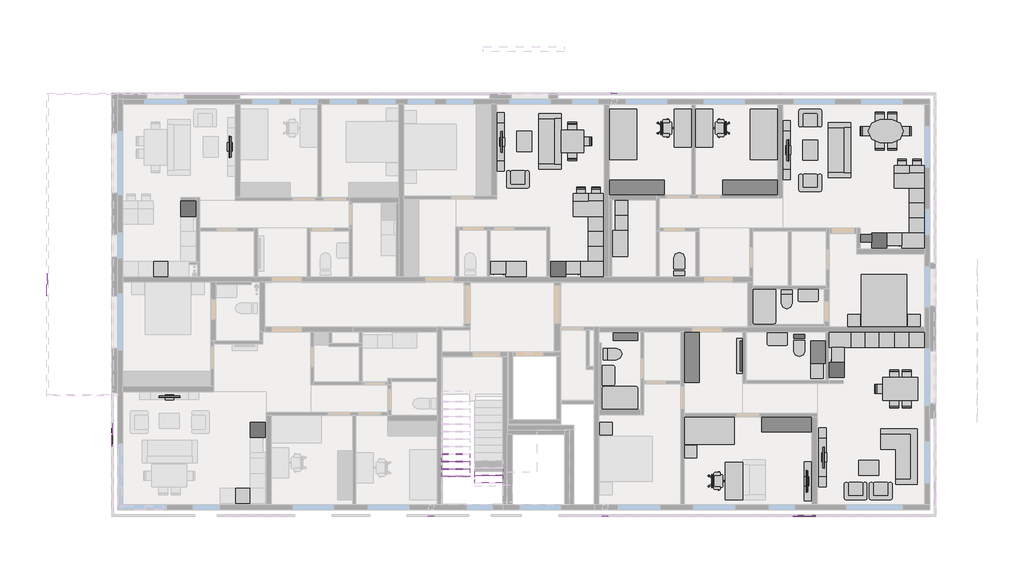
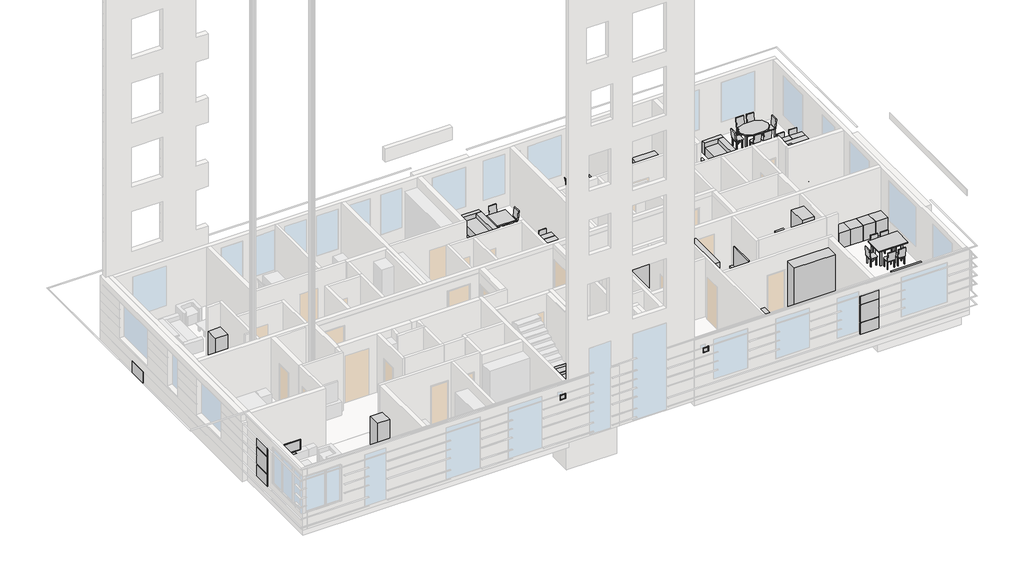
# One storey, part 10 of 11: 72 furniture elements, 36 proxies, 21 flow terminals.
"""IFC4 building model written with IfcOpenShell, lengths in millimetres."""

from ifc_helpers import new_model, si_unit, frame, origin, place, context, project, spatial, polyline, outline, extrude, faceted_brep, transform, mapped, element, save
from components import generic_models_2374763e, generic_models_0ea3a2f0, generic_models_359d7c4d, generic_models_d5e938d4, generic_models_e5fd676e, proxy_200x200_7656bd7d, proxy_600x600_5c3b2bdc, proxy_600x600_402ae289, diagonal_810_88a9d531, diagonal_810_7ba350c9, flow_terminal_9331744f, flow_terminal_e882d1db, flow_terminal_600x500_0679050d, flow_terminal_600x500_bbc3c571, flow_terminal_600x600_aff60e7d, flow_terminal_600x600_852fcc23, flow_terminal_600x600_098c5d3b, flow_terminal_800x500_2e84b328, default_a7bc26c5, default_96a4dd6a, default_cdd5ccfe, furniture_04e13bb0, furniture_0a480fd8, furniture_ec166d57, furniture_6f0d27c5, furniture_886729af, furniture_af5cb44b, furniture_a4c6fd55, furniture_1500x700_7e20c9bf, furniture_1500x700_44764a8b, furniture_2000x900_8549b6ce, furniture_2000x900_58b30379, furniture_2100x1800_bd9d3ce1, furniture_2200_2217fce5, furniture_2200_8f109862, furniture_500x2350_ecc61c4f, furniture_500x2350_c66ae9e6, furniture_500x2350_ca4e032f, furniture_700x700_51dbe41f, furniture_900x1400_8099c148, furniture_900x600_407b2405, furniture_900x_6df32213, chair_43e23103, chair_320c8197, default_8bd5e8aa, default_8e6d88ca, default_1c22f4a7, default_57711184, default_7369cba9, default_14032b75, default_8cef931d, default_b709d490, default_56ffee6e, default_10b48312, default_5d1f57f7, default_d962509c

model = new_model("IFC4")

# Units and contexts
model_context = context("Model", 3, world=origin())
ifc_project = project(units=[si_unit("LENGTHUNIT", "METRE", prefix="MILLI")], contexts=[model_context])

# Site, building, storey
site = spatial("IfcSite", under=ifc_project)
building = spatial("IfcBuilding", under=site)
storey = spatial("IfcBuildingStorey", under=building, Name="02_+4,400_Ж", Elevation=1200.0)

# Proxies
placement = place(None, origin())
element("IfcBuildingElementProxy", 1, Name="GM_Отделка : Ступень", ObjectType="GM_Отделка : Ступень", at=placement, inside=storey, context=model_context, shape_type="SweptSolid", body=[
    extrude(outline(polyline([(143230.0000002, 112779.9999987), (143230.0000002, 113079.9999987), (144350.0000002, 113079.9999987), (144350.0000002, 112779.9999987), (143230.0000002, 112779.9999987)])), frame((0.0, 0.0, 2670.0), z_axis=(0.0, 0.0, 1.0), x_axis=(1.0, 0.0, 0.0)), (0.0, 0.0, 1.0), 30.0),
])
element("IfcBuildingElementProxy", 2, Name="GM_Отделка : Подступенок", ObjectType="GM_Отделка : Подступенок", at=placement, inside=storey, context=model_context, shape_type="SweptSolid", body=[
    extrude(outline(polyline([(144350.0000002, 112779.9999987), (144350.0000002, 112749.9999987), (143230.0000002, 112749.9999987), (143230.0000002, 112779.9999987), (144350.0000002, 112779.9999987)])), frame((0.0, 0.0, 2670.0), z_axis=(0.0, 0.0, 1.0), x_axis=(1.0, 0.0, 0.0)), (0.0, 0.0, 1.0), 150.0),
])
element("IfcBuildingElementProxy", 3, Name="GM_Отделка : Ступень", ObjectType="GM_Отделка : Ступень", at=placement, inside=storey, context=model_context, shape_type="Brep", body=[
    faceted_brep([(143230.0000002, 112779.9999987, 2820.0), (144350.0000002, 112779.9999987, 2820.0), (144350.0000002, 112479.9999987, 2820.0), (143230.0000002, 112479.9999987, 2820.0), (143230.0000002, 112719.9999987, 2820.0), (143230.0000002, 112479.9999987, 2850.0), (144350.0000002, 112479.9999987, 2850.0), (144350.0000002, 112779.9999987, 2850.0), (143230.0000002, 112779.9999987, 2850.0), (143230.0000002, 112719.9999987, 2850.0)], [[[0, 1, 2, 3, 4]], [[5, 6, 7, 8, 9]], [[8, 0, 4, 3, 5, 9]], [[2, 1, 7, 6]], [[1, 0, 8, 7]], [[3, 2, 6, 5]]]),
])
generic_models_shape = generic_models_2374763e(model_context)
element("IfcBuildingElementProxy", 4, Name="GM_Панель фасадная : Тип 1", ObjectType="GM_Панель фасадная : Тип 1", at=placement, inside=storey, context=model_context, shape_type="MappedRepresentation", body=[
    mapped(generic_models_shape, transform((128855.0000001, 114724.9999987, 2490.0), x_axis=(0.0, 1.0, 0.0), y_axis=(-1.0, 0.0, 0.0), z_axis=(0.0, 0.0, 1.0))),
])
element("IfcBuildingElementProxy", 5, Name="GM_Панель фасадная : Тип 1", ObjectType="GM_Панель фасадная : Тип 1", at=placement, inside=storey, context=model_context, shape_type="MappedRepresentation", body=[
    mapped(generic_models_shape, transform((156055.0000001, 111274.9999987, 2490.0), x_axis=(-1.0, 0.0, 0.0), y_axis=(0.0, -1.0, 0.0), z_axis=(0.0, 0.0, 1.0))),
])
generic_models_2_shape = generic_models_0ea3a2f0(model_context)
element("IfcBuildingElementProxy", 6, Name="GM_Панель фасадная : Тип 1", ObjectType="GM_Панель фасадная : Тип 1", at=placement, inside=storey, context=model_context, shape_type="MappedRepresentation", body=[
    mapped(generic_models_2_shape, transform((128855.0000001, 114724.9999987, 3400.0), x_axis=(0.0, 1.0, 0.0), y_axis=(-1.0, 0.0, 0.0), z_axis=(0.0, 0.0, 1.0))),
])
element("IfcBuildingElementProxy", 7, Name="GM_Панель фасадная : Тип 1", ObjectType="GM_Панель фасадная : Тип 1", at=placement, inside=storey, context=model_context, shape_type="MappedRepresentation", body=[
    mapped(generic_models_2_shape, transform((156055.0000001, 111274.9999987, 3400.0), x_axis=(-1.0, 0.0, 0.0), y_axis=(0.0, -1.0, 0.0), z_axis=(0.0, 0.0, 1.0))),
])
generic_models_3_shape = generic_models_359d7c4d(model_context)
element("IfcBuildingElementProxy", 8, Name="GM_Панель фасадная : Тип 1", ObjectType="GM_Панель фасадная : Тип 1", at=placement, inside=storey, context=model_context, shape_type="MappedRepresentation", body=[
    mapped(generic_models_3_shape, transform((128855.0000001, 114724.9999987, 1885.0), x_axis=(0.0, 1.0, 0.0), y_axis=(-1.0, 0.0, 0.0), z_axis=(0.0, 0.0, 1.0))),
])
element("IfcBuildingElementProxy", 9, Name="GM_Панель фасадная : Тип 1", ObjectType="GM_Панель фасадная : Тип 1", at=placement, inside=storey, context=model_context, shape_type="MappedRepresentation", body=[
    mapped(generic_models_3_shape, transform((156055.0000001, 111274.9999987, 1885.0), x_axis=(-1.0, 0.0, 0.0), y_axis=(0.0, -1.0, 0.0), z_axis=(0.0, 0.0, 1.0))),
])
element("IfcBuildingElementProxy", 10, Name="GM_Панель фасадная : Тип 1", ObjectType="GM_Панель фасадная : Тип 1", at=placement, inside=storey, context=model_context, shape_type="MappedRepresentation", body=[
    mapped(generic_models_3_shape, transform((126255.0000001, 120724.9999987, 4460.0), x_axis=(0.0, 1.0, 0.0), y_axis=(-1.0, 0.0, 0.0), z_axis=(0.0, 0.0, 1.0))),
])
generic_models_4_shape = generic_models_d5e938d4(model_context)
element("IfcBuildingElementProxy", 11, Name="GM_Отделка : Подступенок", ObjectType="GM_Отделка : Подступенок", at=placement, inside=storey, context=model_context, shape_type="MappedRepresentation", body=[
    mapped(generic_models_4_shape, transform((142882.5000001, 112749.9999987, 3170.0), x_axis=(0.0, 0.0, 1.0), y_axis=(-1.0, 0.0, 0.0), z_axis=(0.0, -1.0, 0.0))),
])
element("IfcBuildingElementProxy", 12, Name="GM_Отделка : Подступенок", ObjectType="GM_Отделка : Подступенок", at=placement, inside=storey, context=model_context, shape_type="MappedRepresentation", body=[
    mapped(generic_models_4_shape, transform((142882.5000001, 113049.9999987, 3320.0), x_axis=(0.0, 0.0, 1.0), y_axis=(-1.0, 0.0, 0.0), z_axis=(0.0, -1.0, 0.0))),
])
element("IfcBuildingElementProxy", 13, Name="GM_Отделка : Подступенок", ObjectType="GM_Отделка : Подступенок", at=placement, inside=storey, context=model_context, shape_type="MappedRepresentation", body=[
    mapped(generic_models_4_shape, transform((142882.5000001, 113349.9999987, 3470.0), x_axis=(0.0, 0.0, 1.0), y_axis=(-1.0, 0.0, 0.0), z_axis=(0.0, -1.0, 0.0))),
])
element("IfcBuildingElementProxy", 14, Name="GM_Отделка : Подступенок", ObjectType="GM_Отделка : Подступенок", at=placement, inside=storey, context=model_context, shape_type="MappedRepresentation", body=[
    mapped(generic_models_4_shape, transform((142882.5000001, 113649.9999987, 3620.0), x_axis=(0.0, 0.0, 1.0), y_axis=(-1.0, 0.0, 0.0), z_axis=(0.0, -1.0, 0.0))),
])
generic_models_5_shape = generic_models_e5fd676e(model_context)
element("IfcBuildingElementProxy", 15, Name="GM_Отделка : Ступень", ObjectType="GM_Отделка : Ступень", at=placement, inside=storey, context=model_context, shape_type="MappedRepresentation", body=[
    mapped(generic_models_5_shape, transform((142882.5000001, 113069.9999987, 2970.0), x_axis=(0.0, 1.0, 0.0), y_axis=(-1.0, 0.0, 0.0), z_axis=(0.0, 0.0, 1.0))),
])
element("IfcBuildingElementProxy", 16, Name="GM_Отделка : Ступень", ObjectType="GM_Отделка : Ступень", at=placement, inside=storey, context=model_context, shape_type="MappedRepresentation", body=[
    mapped(generic_models_5_shape, transform((142882.5000001, 113369.9999987, 3120.0), x_axis=(0.0, 1.0, 0.0), y_axis=(-1.0, 0.0, 0.0), z_axis=(0.0, 0.0, 1.0))),
])
element("IfcBuildingElementProxy", 17, Name="GM_Отделка : Ступень", ObjectType="GM_Отделка : Ступень", at=placement, inside=storey, context=model_context, shape_type="MappedRepresentation", body=[
    mapped(generic_models_5_shape, transform((142882.5000001, 113669.9999987, 3270.0), x_axis=(0.0, 1.0, 0.0), y_axis=(-1.0, 0.0, 0.0), z_axis=(0.0, 0.0, 1.0))),
])
proxy_200x200_shape = proxy_200x200_7656bd7d(model_context)
element("IfcBuildingElementProxy", 18, Name="Eq_Отв- заполнение_решетка П : 200x200", ObjectType="Eq_Отв- заполнение_решетка П : 200x200", at=placement, inside=storey, context=model_context, shape_type="MappedRepresentation", body=[
    mapped(proxy_200x200_shape, transform((148790.0000001, 128049.9999987, 3745.0), x_axis=(-1.0, 0.0, 0.0), y_axis=(0.0, 0.0, 1.0), z_axis=(0.0, 1.0, 0.0))),
])
element("IfcBuildingElementProxy", 19, Name="Eq_Отв- заполнение_решетка П : 200x200", ObjectType="Eq_Отв- заполнение_решетка П : 200x200", at=placement, inside=storey, context=model_context, shape_type="MappedRepresentation", body=[
    mapped(proxy_200x200_shape, transform((148430.0000001, 111149.9999987, 3745.0), x_axis=(1.0, 0.0, 0.0), y_axis=(0.0, 0.0, 1.0), z_axis=(0.0, -1.0, 0.0))),
])
element("IfcBuildingElementProxy", 20, Name="Eq_Отв- заполнение_решетка П : 200x200", ObjectType="Eq_Отв- заполнение_решетка П : 200x200", at=placement, inside=storey, context=model_context, shape_type="MappedRepresentation", body=[
    mapped(proxy_200x200_shape, transform((141480.0000001, 111149.9999987, 3745.0), x_axis=(1.0, 0.0, 0.0), y_axis=(0.0, 0.0, 1.0), z_axis=(0.0, -1.0, 0.0))),
])
proxy_600x600_shape = proxy_600x600_5c3b2bdc(model_context)
element("IfcBuildingElementProxy", 21, Name="Eq_плита_LEG_v2 : 600x600", ObjectType="Eq_плита_LEG_v2 : 600x600", at=placement, inside=storey, context=model_context, shape_type="MappedRepresentation", body=[
    mapped(proxy_600x600_shape, transform((130997.5000001, 121324.9999987, 1200.0), x_axis=(-1.0, 0.0, 0.0), y_axis=(0.0, -1.0, 0.0), z_axis=(0.0, 0.0, 1.0))),
])
element("IfcBuildingElementProxy", 22, Name="Eq_плита_LEG_v2 : 600x600", ObjectType="Eq_плита_LEG_v2 : 600x600", at=placement, inside=storey, context=model_context, shape_type="MappedRepresentation", body=[
    mapped(proxy_600x600_shape, transform((147750.0000001, 123124.9999987, 1200.0), x_axis=(0.0, -1.0, 0.0), y_axis=(1.0, 0.0, 0.0), z_axis=(0.0, 0.0, 1.0))),
])
element("IfcBuildingElementProxy", 23, Name="Eq_плита_LEG_v2 : 600x600", ObjectType="Eq_плита_LEG_v2 : 600x600", at=placement, inside=storey, context=model_context, shape_type="MappedRepresentation", body=[
    mapped(proxy_600x600_shape, transform((160565.0000001, 124254.9999987, 1200.0), x_axis=(0.0, -1.0, 0.0), y_axis=(1.0, 0.0, 0.0), z_axis=(0.0, 0.0, 1.0))),
])
element("IfcBuildingElementProxy", 24, Name="Eq_плита_LEG_v2 : 600x600", ObjectType="Eq_плита_LEG_v2 : 600x600", at=placement, inside=storey, context=model_context, shape_type="MappedRepresentation", body=[
    mapped(proxy_600x600_shape, transform((159962.0000001, 117879.9999987, 1200.0), x_axis=(1.0, 0.0, 0.0), y_axis=(0.0, 1.0, 0.0), z_axis=(0.0, 0.0, 1.0))),
])
element("IfcBuildingElementProxy", 25, Name="Eq_плита_LEG_v2 : 600x600", ObjectType="Eq_плита_LEG_v2 : 600x600", at=placement, inside=storey, context=model_context, shape_type="MappedRepresentation", body=[
    mapped(proxy_600x600_shape, transform((134265.0000001, 112249.9999987, 1200.0), x_axis=(-1.0, 0.0, 0.0), y_axis=(0.0, -1.0, 0.0), z_axis=(0.0, 0.0, 1.0))),
])
proxy_600x600_2_shape = proxy_600x600_402ae289(model_context)
element("IfcBuildingElementProxy", 26, Name="Eq_холодильник_LEG : 600x600", ObjectType="Eq_холодильник_LEG : 600x600", at=placement, inside=storey, context=model_context, shape_type="MappedRepresentation", body=[
    mapped(proxy_600x600_2_shape, transform((132085.0000001, 123124.9999987, 1200.0), x_axis=(0.0, -1.0, 0.0), y_axis=(1.0, 0.0, 0.0), z_axis=(0.0, 0.0, 1.0))),
])
element("IfcBuildingElementProxy", 27, Name="Eq_холодильник_LEG : 600x600", ObjectType="Eq_холодильник_LEG : 600x600", at=placement, inside=storey, context=model_context, shape_type="MappedRepresentation", body=[
    mapped(proxy_600x600_2_shape, transform((146250.0000001, 120724.9999987, 1200.0), x_axis=(-1.0, 0.0, 0.0), y_axis=(0.0, -1.0, 0.0), z_axis=(0.0, 0.0, 1.0))),
])
element("IfcBuildingElementProxy", 28, Name="Eq_холодильник_LEG : 600x600", ObjectType="Eq_холодильник_LEG : 600x600", at=placement, inside=storey, context=model_context, shape_type="MappedRepresentation", body=[
    mapped(proxy_600x600_2_shape, transform((159065.0000001, 121854.9999987, 1200.0), x_axis=(-1.0, 0.0, 0.0), y_axis=(0.0, -1.0, 0.0), z_axis=(0.0, 0.0, 1.0))),
])
element("IfcBuildingElementProxy", 29, Name="Eq_холодильник_LEG : 600x600", ObjectType="Eq_холодильник_LEG : 600x600", at=placement, inside=storey, context=model_context, shape_type="MappedRepresentation", body=[
    mapped(proxy_600x600_2_shape, transform((157377.0000001, 117279.9999987, 1200.0), x_axis=(0.0, 1.0, 0.0), y_axis=(-1.0, 0.0, 0.0), z_axis=(0.0, 0.0, 1.0))),
])
element("IfcBuildingElementProxy", 30, Name="Eq_холодильник_LEG : 600x600", ObjectType="Eq_холодильник_LEG : 600x600", at=placement, inside=storey, context=model_context, shape_type="MappedRepresentation", body=[
    mapped(proxy_600x600_2_shape, transform((134865.0000001, 114299.9999987, 1200.0), x_axis=(0.0, -1.0, 0.0), y_axis=(1.0, 0.0, 0.0), z_axis=(0.0, 0.0, 1.0))),
])
diagonal_810_shape = diagonal_810_88a9d531(model_context)
element("IfcBuildingElementProxy", 31, Name="Eq_TV : diagonal_810", ObjectType="Eq_TV : diagonal_810", at=placement, inside=storey, context=model_context, shape_type="MappedRepresentation", body=[
    mapped(diagonal_810_shape, transform((157117.5755232, 113486.0554846, 1600.0), x_axis=(0.0, -1.0, 0.0), y_axis=(1.0, 0.0, 0.0), z_axis=(0.0, 0.0, 1.0))),
])
diagonal_810_2_shape = diagonal_810_7ba350c9(model_context)
element("IfcBuildingElementProxy", 32, Name="Eq_TV : diagonal_810", ObjectType="Eq_TV : diagonal_810", at=placement, inside=storey, context=model_context, shape_type="MappedRepresentation", body=[
    mapped(diagonal_810_2_shape, transform((131038.9445143, 115952.4244756, 1600.0), x_axis=(1.0, 0.0, 0.0), y_axis=(0.0, 1.0, 0.0), z_axis=(0.0, 0.0, 1.0))),
])
element("IfcBuildingElementProxy", 33, Name="Eq_TV : diagonal_810", ObjectType="Eq_TV : diagonal_810", at=placement, inside=storey, context=model_context, shape_type="MappedRepresentation", body=[
    mapped(diagonal_810_2_shape, transform((133497.4244771, 125896.0554846, 1600.0), x_axis=(0.0, -1.0, 0.0), y_axis=(1.0, 0.0, 0.0), z_axis=(0.0, 0.0, 1.0))),
])
element("IfcBuildingElementProxy", 34, Name="Eq_TV : diagonal_810", ObjectType="Eq_TV : diagonal_810", at=placement, inside=storey, context=model_context, shape_type="MappedRepresentation", body=[
    mapped(diagonal_810_2_shape, transform((144262.5755232, 126103.9445128, 1600.0), x_axis=(0.0, 1.0, 0.0), y_axis=(-1.0, 0.0, 0.0), z_axis=(0.0, 0.0, 1.0))),
])
element("IfcBuildingElementProxy", 35, Name="Eq_TV : diagonal_810", ObjectType="Eq_TV : diagonal_810", at=placement, inside=storey, context=model_context, shape_type="MappedRepresentation", body=[
    mapped(diagonal_810_2_shape, transform((155685.6400195, 125768.9445128, 1600.0), x_axis=(0.0, 1.0, 0.0), y_axis=(-1.0, 0.0, 0.0), z_axis=(0.0, 0.0, 1.0))),
])
element("IfcBuildingElementProxy", 36, Name="Eq_TV : diagonal_810", ObjectType="Eq_TV : diagonal_810", at=placement, inside=storey, context=model_context, shape_type="MappedRepresentation", body=[
    mapped(diagonal_810_2_shape, transform((156519.4244771, 112536.0554846, 1600.0), x_axis=(0.0, -1.0, 0.0), y_axis=(1.0, 0.0, 0.0), z_axis=(0.0, 0.0, 1.0))),
])

# Flow terminals
flow_terminal_shape = flow_terminal_9331744f(model_context)
element("IfcFlowTerminal", 37, ObjectType="SP_унитаз подвесной : SP_унитаз подвесной", at=placement, inside=storey, context=model_context, shape_type="MappedRepresentation", body=[
    mapped(flow_terminal_shape, transform((156177.0000001, 118169.9999987, 1600.0), x_axis=(-1.0, 0.0, 0.0), y_axis=(0.0, -1.0, 0.0), z_axis=(0.0, 0.0, 1.0))),
])
flow_terminal_2_shape = flow_terminal_e882d1db(model_context)
element("IfcFlowTerminal", 38, ObjectType="SP_унитаз подвесной : SP_унитаз подвесной", at=placement, inside=storey, context=model_context, shape_type="MappedRepresentation", body=[
    mapped(flow_terminal_2_shape, transform((151385.0000001, 121029.9999987, 1200.0), x_axis=(1.0, 0.0, 0.0), y_axis=(0.0, 1.0, 0.0), z_axis=(0.0, 0.0, 1.0))),
])
flow_terminal_600x500_shape = flow_terminal_600x500_0679050d(model_context)
element("IfcFlowTerminal", 39, ObjectType="SP_раковина_LEG_настраиваемая : 600x500", at=placement, inside=storey, context=model_context, shape_type="MappedRepresentation", body=[
    mapped(flow_terminal_600x500_shape, transform((144870.0000001, 120724.9999987, 1200.0), x_axis=(-1.0, 0.0, 0.0), y_axis=(0.0, -1.0, 0.0), z_axis=(0.0, 0.0, 1.0))),
])
flow_terminal_600x500_2_shape = flow_terminal_600x500_bbc3c571(model_context)
element("IfcFlowTerminal", 40, ObjectType="SP_раковина_LEG_настраиваемая : 600x500", at=placement, inside=storey, context=model_context, shape_type="MappedRepresentation", body=[
    mapped(flow_terminal_600x500_2_shape, transform((148740.0000001, 122037.4999987, 1288.0), x_axis=(0.0, 1.0, 0.0), y_axis=(-1.0, 0.0, 0.0), z_axis=(0.0, 0.0, 1.0))),
])
flow_terminal_600x600_shape = flow_terminal_600x600_aff60e7d(model_context)
element("IfcFlowTerminal", 41, ObjectType="SP_раковина кухонная_LEG : 600x600", at=placement, inside=storey, context=model_context, shape_type="MappedRepresentation", body=[
    mapped(flow_terminal_600x600_shape, transform((159362.0000001, 118479.9999987, 1200.0), x_axis=(1.0, 0.0, 0.0), y_axis=(0.0, 1.0, 0.0), z_axis=(0.0, 0.0, 1.0))),
])
element("IfcFlowTerminal", 42, ObjectType="SP_раковина кухонная_LEG : 600x600", at=placement, inside=storey, context=model_context, shape_type="MappedRepresentation", body=[
    mapped(flow_terminal_600x600_shape, transform((148350.0000001, 121324.9999987, 1200.0), x_axis=(0.0, -1.0, 0.0), y_axis=(1.0, 0.0, 0.0), z_axis=(0.0, 0.0, 1.0))),
])
element("IfcFlowTerminal", 43, ObjectType="SP_раковина кухонная_LEG : 600x600", at=placement, inside=storey, context=model_context, shape_type="MappedRepresentation", body=[
    mapped(flow_terminal_600x600_shape, transform((161165.0000001, 122454.9999987, 1200.0), x_axis=(0.0, -1.0, 0.0), y_axis=(1.0, 0.0, 0.0), z_axis=(0.0, 0.0, 1.0))),
])
flow_terminal_600x600_2_shape = flow_terminal_600x600_852fcc23(model_context)
element("IfcFlowTerminal", 44, ObjectType="SP_стиральная машина_LEG : 600x600", at=placement, inside=storey, context=model_context, shape_type="MappedRepresentation", body=[
    mapped(flow_terminal_600x600_2_shape, transform((144170.0000001, 120724.9999987, 1200.0), x_axis=(1.0, 0.0, 0.0), y_axis=(0.0, 1.0, 0.0), z_axis=(0.0, 0.0, 1.0))),
])
element("IfcFlowTerminal", 45, ObjectType="SP_стиральная машина_LEG : 600x600", at=placement, inside=storey, context=model_context, shape_type="MappedRepresentation", body=[
    mapped(flow_terminal_600x600_2_shape, transform((148740.0000001, 123449.9999987, 1200.0), x_axis=(0.0, -1.0, 0.0), y_axis=(1.0, 0.0, 0.0), z_axis=(0.0, 0.0, 1.0))),
])
element("IfcFlowTerminal", 46, ObjectType="SP_стиральная машина_LEG : 600x600", at=placement, inside=storey, context=model_context, shape_type="MappedRepresentation", body=[
    mapped(flow_terminal_600x600_2_shape, transform((157227.0000001, 116949.9999987, 1200.0), x_axis=(0.0, 1.0, 0.0), y_axis=(-1.0, 0.0, 0.0), z_axis=(0.0, 0.0, 1.0))),
])
element("IfcFlowTerminal", 47, ObjectType="SP_стиральная машина_LEG : 600x600", at=placement, inside=storey, context=model_context, shape_type="MappedRepresentation", body=[
    mapped(flow_terminal_600x600_2_shape, transform((148740.0000001, 122849.9999987, 1200.0), x_axis=(0.0, -1.0, 0.0), y_axis=(1.0, 0.0, 0.0), z_axis=(0.0, 0.0, 1.0))),
])
flow_terminal_600x600_3_shape = flow_terminal_600x600_098c5d3b(model_context)
element("IfcFlowTerminal", 48, ObjectType="SP_посудомоечная машина_LEG : 600x600", at=placement, inside=storey, context=model_context, shape_type="MappedRepresentation", body=[
    mapped(flow_terminal_600x600_3_shape, transform((147150.0000001, 120724.9999987, 1200.0), x_axis=(1.0, 0.0, 0.0), y_axis=(0.0, 1.0, 0.0), z_axis=(0.0, 0.0, 1.0))),
])
element("IfcFlowTerminal", 49, ObjectType="SP_посудомоечная машина_LEG : 600x600", at=placement, inside=storey, context=model_context, shape_type="MappedRepresentation", body=[
    mapped(flow_terminal_600x600_3_shape, transform((159965.0000001, 121854.9999987, 1200.0), x_axis=(1.0, 0.0, 0.0), y_axis=(0.0, 1.0, 0.0), z_axis=(0.0, 0.0, 1.0))),
])
element("IfcFlowTerminal", 50, ObjectType="SP_посудомоечная машина_LEG : 600x600", at=placement, inside=storey, context=model_context, shape_type="MappedRepresentation", body=[
    mapped(flow_terminal_600x600_3_shape, transform((157377.0000001, 117579.9999987, 1200.0), x_axis=(0.0, -1.0, 0.0), y_axis=(1.0, 0.0, 0.0), z_axis=(0.0, 0.0, 1.0))),
])
flow_terminal_800x500_shape = flow_terminal_800x500_2e84b328(model_context)
element("IfcFlowTerminal", 51, ObjectType="SP_раковина_LEG : 800x500", at=placement, inside=storey, context=model_context, shape_type="MappedRepresentation", body=[
    mapped(flow_terminal_800x500_shape, transform((156530.0000001, 120224.9999987, 1200.0), x_axis=(1.0, 0.0, 0.0), y_axis=(0.0, 1.0, 0.0), z_axis=(0.0, 0.0, 1.0))),
])
element("IfcFlowTerminal", 52, ObjectType="SP_раковина_LEG : 800x500", at=placement, inside=storey, context=model_context, shape_type="MappedRepresentation", body=[
    mapped(flow_terminal_800x500_shape, transform((148305.0000001, 116769.9999987, 1200.0), x_axis=(0.0, 1.0, 0.0), y_axis=(-1.0, 0.0, 0.0), z_axis=(0.0, 0.0, 1.0))),
])
element("IfcFlowTerminal", 53, ObjectType="SP_раковина_LEG : 800x500", at=placement, inside=storey, context=model_context, shape_type="MappedRepresentation", body=[
    mapped(flow_terminal_800x500_shape, transform((155302.0000001, 118474.9999987, 1200.0), x_axis=(1.0, 0.0, 0.0), y_axis=(0.0, 1.0, 0.0), z_axis=(0.0, 0.0, 1.0))),
])
default_shape = default_a7bc26c5(model_context)
element("IfcFlowTerminal", 54, ObjectType="SP_душевой поддон_LEG : default", at=placement, inside=storey, context=model_context, shape_type="MappedRepresentation", body=[
    mapped(default_shape, transform((154330.0000001, 120224.9999987, 1200.0), x_axis=(0.0, -1.0, 0.0), y_axis=(1.0, 0.0, 0.0), z_axis=(0.0, 0.0, 1.0))),
])
default_2_shape = default_96a4dd6a(model_context)
element("IfcFlowTerminal", 55, ObjectType="SP_душевой поддон_LEG : default", at=placement, inside=storey, context=model_context, shape_type="MappedRepresentation", body=[
    mapped(default_2_shape, transform((149720.0000001, 115429.9999987, 1200.0), x_axis=(0.0, 1.0, 0.0), y_axis=(-1.0, 0.0, 0.0), z_axis=(0.0, 0.0, 1.0))),
])
default_3_shape = default_cdd5ccfe(model_context)
element("IfcFlowTerminal", 56, ObjectType="SP_унитаз : default", at=placement, inside=storey, context=model_context, shape_type="MappedRepresentation", body=[
    mapped(default_3_shape, transform((155680.0000001, 120174.9999987, 1200.0), x_axis=(0.0, -1.0, 0.0), y_axis=(1.0, 0.0, 0.0), z_axis=(0.0, 0.0, 1.0))),
])
element("IfcFlowTerminal", 57, ObjectType="SP_унитаз : default", at=placement, inside=storey, context=model_context, shape_type="MappedRepresentation", body=[
    mapped(default_3_shape, transform((148355.0000001, 117619.9999987, 1200.0), x_axis=(1.0, 0.0, 0.0), y_axis=(0.0, 1.0, 0.0), z_axis=(0.0, 0.0, 1.0))),
])

# Furniture
furniture_shape = furniture_04e13bb0(model_context)
element("IfcFurniture", 58, ObjectType="Fu_журнальный_столик_прямоугольный_LEG : 600Х800", at=placement, inside=storey, context=model_context, shape_type="MappedRepresentation", body=[
    mapped(furniture_shape, transform((145745.0000001, 126119.9999987, 1200.0), x_axis=(1.0, 0.0, 0.0), y_axis=(0.0, 1.0, 0.0), z_axis=(0.0, 0.0, 1.0))),
])
element("IfcFurniture", 59, ObjectType="Fu_журнальный_столик_прямоугольный_LEG : 600Х800", at=placement, inside=storey, context=model_context, shape_type="MappedRepresentation", body=[
    mapped(furniture_shape, transform((157165.0000001, 125764.9999987, 1200.0), x_axis=(1.0, 0.0, 0.0), y_axis=(0.0, 1.0, 0.0), z_axis=(0.0, 0.0, 1.0))),
])
element("IfcFurniture", 60, ObjectType="Fu_журнальный_столик_прямоугольный_LEG : 600Х800", at=placement, inside=storey, context=model_context, shape_type="MappedRepresentation", body=[
    mapped(furniture_shape, transform((158955.0000001, 113630.6346934, 1200.0), x_axis=(0.0, 1.0, 0.0), y_axis=(-1.0, 0.0, 0.0), z_axis=(0.0, 0.0, 1.0))),
])
furniture_2_shape = furniture_0a480fd8(model_context)
element("IfcFurniture", 61, ObjectType="Fu_трюмо_LEG : 1400Х250", at=placement, inside=storey, context=model_context, shape_type="MappedRepresentation", body=[
    mapped(furniture_2_shape, transform((153927.0000001, 116839.9999987, 1200.0), x_axis=(0.0, 1.0, 0.0), y_axis=(-1.0, 0.0, 0.0), z_axis=(0.0, 0.0, 1.0))),
])
furniture_3_shape = furniture_ec166d57(model_context)
element("IfcFurniture", 62, ObjectType="Fu_шкаф 1-с : Шкаф 1-створчатый", at=placement, inside=storey, context=model_context, shape_type="MappedRepresentation", body=[
    mapped(furniture_3_shape, transform((156627.0000001, 117249.9999987, 1200.0), x_axis=(1.0, 0.0, 0.0), y_axis=(0.0, 1.0, 0.0), z_axis=(0.0, 0.0, 1.0))),
])
furniture_4_shape = furniture_6f0d27c5(model_context)
element("IfcFurniture", 63, ObjectType="Fu_шкаф 1-с : Шкаф 1-створчатый", at=placement, inside=storey, context=model_context, shape_type="MappedRepresentation", body=[
    mapped(furniture_4_shape, transform((148760.0000001, 118169.9999987, 1200.0), x_axis=(1.0, 0.0, 0.0), y_axis=(0.0, 1.0, 0.0), z_axis=(0.0, 0.0, 1.0))),
])
furniture_5_shape = furniture_886729af(model_context)
element("IfcFurniture", 64, ObjectType="Fu_шкаф 1-с : Шкаф 1-створчатый", at=placement, inside=storey, context=model_context, shape_type="MappedRepresentation", body=[
    mapped(furniture_5_shape, transform((158605.0000001, 122104.9999987, 1200.0), x_axis=(1.0, 0.0, 0.0), y_axis=(0.0, 1.0, 0.0), z_axis=(0.0, 0.0, 1.0))),
])
furniture_6_shape = furniture_af5cb44b(model_context)
element("IfcFurniture", 65, ObjectType="Fu_тумба прикроватная_LEG : 500х500", at=placement, inside=storey, context=model_context, shape_type="MappedRepresentation", body=[
    mapped(furniture_6_shape, transform((158360.0000001, 118949.9999987, 1200.0), x_axis=(-1.0, 0.0, 0.0), y_axis=(0.0, -1.0, 0.0), z_axis=(0.0, 0.0, 1.0))),
])
element("IfcFurniture", 66, ObjectType="Fu_тумба прикроватная_LEG : 500х500", at=placement, inside=storey, context=model_context, shape_type="MappedRepresentation", body=[
    mapped(furniture_6_shape, transform((148460.0000001, 114639.9999987, 1200.0), x_axis=(0.0, 1.0, 0.0), y_axis=(-1.0, 0.0, 0.0), z_axis=(0.0, 0.0, 1.0))),
])
furniture_7_shape = furniture_a4c6fd55(model_context)
element("IfcFurniture", 67, ObjectType="Fu_тумба прикроватная_LEG : 500х500", at=placement, inside=storey, context=model_context, shape_type="MappedRepresentation", body=[
    mapped(furniture_7_shape, transform((160760.0000001, 118949.9999987, 1200.0), x_axis=(1.0, 0.0, 0.0), y_axis=(0.0, 1.0, 0.0), z_axis=(0.0, 0.0, 1.0))),
])
element("IfcFurniture", 68, ObjectType="Fu_тумба прикроватная_LEG : 500х500", at=placement, inside=storey, context=model_context, shape_type="MappedRepresentation", body=[
    mapped(furniture_7_shape, transform((151832.0000001, 113719.9999987, 1200.0), x_axis=(0.0, -1.0, 0.0), y_axis=(1.0, 0.0, 0.0), z_axis=(0.0, 0.0, 1.0))),
])
furniture_1500x700_shape = furniture_1500x700_7e20c9bf(model_context)
element("IfcFurniture", 69, ObjectType="Fu_стол рабочий : 1500x700", at=placement, inside=storey, context=model_context, shape_type="MappedRepresentation", body=[
    mapped(furniture_1500x700_shape, transform((153631.7939625, 126423.4018907, 1200.0), x_axis=(0.0, -1.0, 0.0), y_axis=(1.0, 0.0, 0.0), z_axis=(0.0, 0.0, 1.0))),
])
furniture_1500x700_2_shape = furniture_1500x700_44764a8b(model_context)
element("IfcFurniture", 70, ObjectType="Fu_стол рабочий : 1500x700", at=placement, inside=storey, context=model_context, shape_type="MappedRepresentation", body=[
    mapped(furniture_1500x700_2_shape, transform((150273.2060378, 126423.4018907, 1200.0), x_axis=(0.0, -1.0, 0.0), y_axis=(1.0, 0.0, 0.0), z_axis=(0.0, 0.0, 1.0))),
])
element("IfcFurniture", 71, ObjectType="Fu_стол рабочий : 1500x700", at=placement, inside=storey, context=model_context, shape_type="MappedRepresentation", body=[
    mapped(furniture_1500x700_2_shape, transform((152310.2060378, 112323.4018907, 1200.0), x_axis=(0.0, -1.0, 0.0), y_axis=(1.0, 0.0, 0.0), z_axis=(0.0, 0.0, 1.0))),
])
furniture_2000x900_shape = furniture_2000x900_8549b6ce(model_context)
element("IfcFurniture", 72, ObjectType="Fu_кровать x1_LEG : 2000x900", at=placement, inside=storey, context=model_context, shape_type="MappedRepresentation", body=[
    mapped(furniture_2000x900_shape, transform((148691.9355038, 126634.4295069, 1200.0), x_axis=(-1.0, 0.0, 0.0), y_axis=(0.0, -1.0, 0.0), z_axis=(0.0, 0.0, 1.0))),
])
furniture_2000x900_2_shape = furniture_2000x900_58b30379(model_context)
element("IfcFurniture", 73, ObjectType="Fu_кровать x1_LEG : 2000x900", at=placement, inside=storey, context=model_context, shape_type="MappedRepresentation", body=[
    mapped(furniture_2000x900_2_shape, transform((152347.570492, 115019.9999987, 1200.0), x_axis=(0.0, 1.0, 0.0), y_axis=(-1.0, 0.0, 0.0), z_axis=(0.0, 0.0, 1.0))),
])
element("IfcFurniture", 74, ObjectType="Fu_кровать x1_LEG : 2000x900", at=placement, inside=storey, context=model_context, shape_type="MappedRepresentation", body=[
    mapped(furniture_2000x900_2_shape, transform((155213.0644964, 126634.4295069, 1200.0), x_axis=(1.0, 0.0, 0.0), y_axis=(0.0, 1.0, 0.0), z_axis=(0.0, 0.0, 1.0))),
])
furniture_2100x1800_shape = furniture_2100x1800_bd9d3ce1(model_context)
element("IfcFurniture", 75, ObjectType="Fu_кровать x2_LEG : 2100x1800", at=placement, inside=storey, context=model_context, shape_type="MappedRepresentation", body=[
    mapped(furniture_2100x1800_shape, transform((159560.0000001, 119515.5704905, 1200.0), x_axis=(1.0, 0.0, 0.0), y_axis=(0.0, 1.0, 0.0), z_axis=(0.0, 0.0, 1.0))),
])
furniture_2200_shape = furniture_2200_2217fce5(model_context)
element("IfcFurniture", 76, ObjectType="Fu_диван_LEG : 2200", at=placement, inside=storey, context=model_context, shape_type="MappedRepresentation", body=[
    mapped(furniture_2200_shape, transform((145753.222951, 126993.3737692, 1200.0), x_axis=(0.0, -1.0, 0.0), y_axis=(1.0, 0.0, 0.0), z_axis=(0.0, 0.0, 1.0))),
])
element("IfcFurniture", 77, ObjectType="Fu_диван_LEG : 2200", at=placement, inside=storey, context=model_context, shape_type="MappedRepresentation", body=[
    mapped(furniture_2200_shape, transform((157313.222951, 126638.3737692, 1200.0), x_axis=(0.0, -1.0, 0.0), y_axis=(1.0, 0.0, 0.0), z_axis=(0.0, 0.0, 1.0))),
])
furniture_2200_2_shape = furniture_2200_8f109862(model_context)
element("IfcFurniture", 78, ObjectType="Fu_диван угловой_LEG : 2200", at=placement, inside=storey, context=model_context, shape_type="MappedRepresentation", body=[
    mapped(furniture_2200_2_shape, transform((159988.222951, 114698.3737692, 1200.0), x_axis=(0.0, -1.0, 0.0), y_axis=(1.0, 0.0, 0.0), z_axis=(0.0, 0.0, 1.0))),
])
furniture_500x2350_shape = furniture_500x2350_ecc61c4f(model_context)
element("IfcFurniture", 79, ObjectType="Fu_TV+тумба_LEG : 500x2350", at=placement, inside=storey, context=model_context, shape_type="MappedRepresentation", body=[
    mapped(furniture_500x2350_shape, transform((157871.7770493, 113263.4018907, 1200.0), x_axis=(0.0, -1.0, 0.0), y_axis=(1.0, 0.0, 0.0), z_axis=(0.0, 0.0, 1.0))),
])
furniture_500x2350_2_shape = furniture_500x2350_c66ae9e6(model_context)
element("IfcFurniture", 80, ObjectType="Fu_TV+тумба_LEG : 500x2350", at=placement, inside=storey, context=model_context, shape_type="MappedRepresentation", body=[
    mapped(furniture_500x2350_2_shape, transform((155765.222951, 112313.4018907, 1200.0), x_axis=(0.0, -1.0, 0.0), y_axis=(1.0, 0.0, 0.0), z_axis=(0.0, 0.0, 1.0))),
])
furniture_500x2350_3_shape = furniture_500x2350_ca4e032f(model_context)
element("IfcFurniture", 81, ObjectType="Fu_TV+тумба_LEG : 500x2350", at=placement, inside=storey, context=model_context, shape_type="MappedRepresentation", body=[
    mapped(furniture_500x2350_3_shape, transform((145016.7770493, 126326.5981067, 1200.0), x_axis=(0.0, 1.0, 0.0), y_axis=(-1.0, 0.0, 0.0), z_axis=(0.0, 0.0, 1.0))),
])
element("IfcFurniture", 82, ObjectType="Fu_TV+тумба_LEG : 500x2350", at=placement, inside=storey, context=model_context, shape_type="MappedRepresentation", body=[
    mapped(furniture_500x2350_3_shape, transform((156439.8415456, 125991.5981067, 1200.0), x_axis=(0.0, 1.0, 0.0), y_axis=(-1.0, 0.0, 0.0), z_axis=(0.0, 0.0, 1.0))),
])
furniture_700x700_shape = furniture_700x700_51dbe41f(model_context)
element("IfcFurniture", 83, ObjectType="Fu_кухонный стол_LEG : 700x700", at=placement, inside=storey, context=model_context, shape_type="MappedRepresentation", body=[
    mapped(furniture_700x700_shape, transform((146570.0000001, 126119.9999987, 1200.0), x_axis=(-1.0, 0.0, 0.0), y_axis=(0.0, -1.0, 0.0), z_axis=(0.0, 0.0, 1.0))),
])
furniture_900x1400_shape = furniture_900x1400_8099c148(model_context)
element("IfcFurniture", 84, ObjectType="Fu_кухонный стол_LEG : 900x1400", at=placement, inside=storey, context=model_context, shape_type="MappedRepresentation", body=[
    mapped(furniture_900x1400_shape, transform((160513.5750403, 116229.9999987, 1200.0), x_axis=(1.0, 0.0, 0.0), y_axis=(0.0, 1.0, 0.0), z_axis=(0.0, 0.0, 1.0))),
])
furniture_900x600_shape = furniture_900x600_407b2405(model_context)
element("IfcFurniture", 85, ObjectType="Fu_кресло_большое_LEG : 900x600", at=placement, inside=storey, context=model_context, shape_type="MappedRepresentation", body=[
    mapped(furniture_900x600_shape, transform((145058.8000002, 124799.92636, 1200.0), x_axis=(-1.0, 0.0, 0.0), y_axis=(0.0, -1.0, 0.0), z_axis=(0.0, 0.0, 1.0))),
])
element("IfcFurniture", 86, ObjectType="Fu_кресло_большое_LEG : 900x600", at=placement, inside=storey, context=model_context, shape_type="MappedRepresentation", body=[
    mapped(furniture_900x600_shape, transform((156500.7000001, 126850.0736374, 1200.0), x_axis=(1.0, 0.0, 0.0), y_axis=(0.0, 1.0, 0.0), z_axis=(0.0, 0.0, 1.0))),
])
element("IfcFurniture", 87, ObjectType="Fu_кресло_большое_LEG : 900x600", at=placement, inside=storey, context=model_context, shape_type="MappedRepresentation", body=[
    mapped(furniture_900x600_shape, transform((156729.3000001, 124664.92636, 1200.0), x_axis=(-1.0, 0.0, 0.0), y_axis=(0.0, -1.0, 0.0), z_axis=(0.0, 0.0, 1.0))),
])
element("IfcFurniture", 88, ObjectType="Fu_кресло_большое_LEG : 900x600", at=placement, inside=storey, context=model_context, shape_type="MappedRepresentation", body=[
    mapped(furniture_900x600_shape, transform((159544.3000001, 112349.92636, 1200.0), x_axis=(-1.0, 0.0, 0.0), y_axis=(0.0, -1.0, 0.0), z_axis=(0.0, 0.0, 1.0))),
])
element("IfcFurniture", 89, ObjectType="Fu_кресло_большое_LEG : 900x600", at=placement, inside=storey, context=model_context, shape_type="MappedRepresentation", body=[
    mapped(furniture_900x600_shape, transform((158544.3000001, 112349.92636, 1200.0), x_axis=(-1.0, 0.0, 0.0), y_axis=(0.0, -1.0, 0.0), z_axis=(0.0, 0.0, 1.0))),
])
furniture_900x_shape = furniture_900x_6df32213(model_context)
element("IfcFurniture", 90, ObjectType="Fu_кухонный стол_овальный_LEG : 900x_", at=placement, inside=storey, context=model_context, shape_type="MappedRepresentation", body=[
    mapped(furniture_900x_shape, transform((159935.7634393, 126529.9837379, 1200.0), x_axis=(1.0, 0.0, 0.0), y_axis=(0.0, 1.0, 0.0), z_axis=(0.0, 0.0, 1.0))),
])
chair_shape = chair_43e23103(model_context)
element("IfcFurniture", 91, ObjectType="Fu_стул_LEG : chair", at=placement, inside=storey, context=model_context, shape_type="MappedRepresentation", body=[
    mapped(chair_shape, transform((147706.5185143, 126091.7999987, 1200.0), x_axis=(0.0, -1.0, 0.0), y_axis=(1.0, 0.0, 0.0), z_axis=(0.0, 0.0, 1.0))),
])
element("IfcFurniture", 92, ObjectType="Fu_стул_LEG : chair", at=placement, inside=storey, context=model_context, shape_type="MappedRepresentation", body=[
    mapped(chair_shape, transform((147091.8000001, 125533.4814846, 1200.0), x_axis=(-1.0, 0.0, 0.0), y_axis=(0.0, -1.0, 0.0), z_axis=(0.0, 0.0, 1.0))),
])
element("IfcFurniture", 93, ObjectType="Fu_стул_LEG : chair", at=placement, inside=storey, context=model_context, shape_type="MappedRepresentation", body=[
    mapped(chair_shape, transform((158799.2449252, 126558.1837379, 1200.0), x_axis=(0.0, 1.0, 0.0), y_axis=(-1.0, 0.0, 0.0), z_axis=(0.0, 0.0, 1.0))),
])
element("IfcFurniture", 94, ObjectType="Fu_стул_LEG : chair", at=placement, inside=storey, context=model_context, shape_type="MappedRepresentation", body=[
    mapped(chair_shape, transform((159413.9634393, 127116.502252, 1200.0), x_axis=(1.0, 0.0, 0.0), y_axis=(0.0, 1.0, 0.0), z_axis=(0.0, 0.0, 1.0))),
])
element("IfcFurniture", 95, ObjectType="Fu_стул_LEG : chair", at=placement, inside=storey, context=model_context, shape_type="MappedRepresentation", body=[
    mapped(chair_shape, transform((159913.9634393, 127116.502252, 1200.0), x_axis=(1.0, 0.0, 0.0), y_axis=(0.0, 1.0, 0.0), z_axis=(0.0, 0.0, 1.0))),
])
element("IfcFurniture", 96, ObjectType="Fu_стул_LEG : chair", at=placement, inside=storey, context=model_context, shape_type="MappedRepresentation", body=[
    mapped(chair_shape, transform((159991.7750403, 116816.5185128, 1200.0), x_axis=(1.0, 0.0, 0.0), y_axis=(0.0, 1.0, 0.0), z_axis=(0.0, 0.0, 1.0))),
])
element("IfcFurniture", 97, ObjectType="Fu_стул_LEG : chair", at=placement, inside=storey, context=model_context, shape_type="MappedRepresentation", body=[
    mapped(chair_shape, transform((160491.7750403, 116816.5185128, 1200.0), x_axis=(1.0, 0.0, 0.0), y_axis=(0.0, 1.0, 0.0), z_axis=(0.0, 0.0, 1.0))),
])
element("IfcFurniture", 98, ObjectType="Fu_стул_LEG : chair", at=placement, inside=storey, context=model_context, shape_type="MappedRepresentation", body=[
    mapped(chair_shape, transform((159377.0565262, 116258.1999987, 1200.0), x_axis=(0.0, 1.0, 0.0), y_axis=(-1.0, 0.0, 0.0), z_axis=(0.0, 0.0, 1.0))),
])
chair_2_shape = chair_320c8197(model_context)
element("IfcFurniture", 99, ObjectType="Fu_стул_LEG : chair", at=placement, inside=storey, context=model_context, shape_type="MappedRepresentation", body=[
    mapped(chair_2_shape, transform((147091.8000001, 126706.5185128, 1200.0), x_axis=(-1.0, 0.0, 0.0), y_axis=(0.0, -1.0, 0.0), z_axis=(0.0, 0.0, 1.0))),
])
element("IfcFurniture", 100, ObjectType="Fu_стул_LEG : chair", at=placement, inside=storey, context=model_context, shape_type="MappedRepresentation", body=[
    mapped(chair_2_shape, transform((148031.8000001, 124104.9999987, 1200.0), x_axis=(-1.0, 0.0, 0.0), y_axis=(0.0, -1.0, 0.0), z_axis=(0.0, 0.0, 1.0))),
])
element("IfcFurniture", 101, ObjectType="Fu_стул_LEG : chair", at=placement, inside=storey, context=model_context, shape_type="MappedRepresentation", body=[
    mapped(chair_2_shape, transform((147431.8000001, 124104.9999987, 1200.0), x_axis=(-1.0, 0.0, 0.0), y_axis=(0.0, -1.0, 0.0), z_axis=(0.0, 0.0, 1.0))),
])
element("IfcFurniture", 102, ObjectType="Fu_стул_LEG : chair", at=placement, inside=storey, context=model_context, shape_type="MappedRepresentation", body=[
    mapped(chair_2_shape, transform((160472.2819535, 126558.1837379, 1200.0), x_axis=(0.0, 1.0, 0.0), y_axis=(-1.0, 0.0, 0.0), z_axis=(0.0, 0.0, 1.0))),
])
element("IfcFurniture", 103, ObjectType="Fu_стул_LEG : chair", at=placement, inside=storey, context=model_context, shape_type="MappedRepresentation", body=[
    mapped(chair_2_shape, transform((159413.9634393, 125943.4652238, 1200.0), x_axis=(1.0, 0.0, 0.0), y_axis=(0.0, 1.0, 0.0), z_axis=(0.0, 0.0, 1.0))),
])
element("IfcFurniture", 104, ObjectType="Fu_стул_LEG : chair", at=placement, inside=storey, context=model_context, shape_type="MappedRepresentation", body=[
    mapped(chair_2_shape, transform((159913.9634393, 125943.4652238, 1200.0), x_axis=(1.0, 0.0, 0.0), y_axis=(0.0, 1.0, 0.0), z_axis=(0.0, 0.0, 1.0))),
])
element("IfcFurniture", 105, ObjectType="Fu_стул_LEG : chair", at=placement, inside=storey, context=model_context, shape_type="MappedRepresentation", body=[
    mapped(chair_2_shape, transform((160846.8000001, 125234.9999987, 1200.0), x_axis=(-1.0, 0.0, 0.0), y_axis=(0.0, -1.0, 0.0), z_axis=(0.0, 0.0, 1.0))),
])
element("IfcFurniture", 106, ObjectType="Fu_стул_LEG : chair", at=placement, inside=storey, context=model_context, shape_type="MappedRepresentation", body=[
    mapped(chair_2_shape, transform((160246.8000001, 125234.9999987, 1200.0), x_axis=(-1.0, 0.0, 0.0), y_axis=(0.0, -1.0, 0.0), z_axis=(0.0, 0.0, 1.0))),
])
element("IfcFurniture", 107, ObjectType="Fu_стул_LEG : chair", at=placement, inside=storey, context=model_context, shape_type="MappedRepresentation", body=[
    mapped(chair_2_shape, transform((159991.7750403, 115643.4814846, 1200.0), x_axis=(1.0, 0.0, 0.0), y_axis=(0.0, 1.0, 0.0), z_axis=(0.0, 0.0, 1.0))),
])
element("IfcFurniture", 108, ObjectType="Fu_стул_LEG : chair", at=placement, inside=storey, context=model_context, shape_type="MappedRepresentation", body=[
    mapped(chair_2_shape, transform((160491.7750403, 115643.4814846, 1200.0), x_axis=(1.0, 0.0, 0.0), y_axis=(0.0, 1.0, 0.0), z_axis=(0.0, 0.0, 1.0))),
])
default_4_shape = default_8bd5e8aa(model_context)
element("IfcFurniture", 109, ObjectType="Fu_кухонный напольный модуль_LEG : default", at=placement, inside=storey, context=model_context, shape_type="MappedRepresentation", body=[
    mapped(default_4_shape, transform((147450.0000001, 120724.9999987, 1200.0), x_axis=(1.0, 0.0, 0.0), y_axis=(0.0, 1.0, 0.0), z_axis=(0.0, 0.0, 1.0))),
])
element("IfcFurniture", 110, ObjectType="Fu_кухонный напольный модуль_LEG : default", at=placement, inside=storey, context=model_context, shape_type="MappedRepresentation", body=[
    mapped(default_4_shape, transform((160265.0000001, 121854.9999987, 1200.0), x_axis=(1.0, 0.0, 0.0), y_axis=(0.0, 1.0, 0.0), z_axis=(0.0, 0.0, 1.0))),
])
default_5_shape = default_8e6d88ca(model_context)
element("IfcFurniture", 111, ObjectType="Fu_кухонный напольный модуль_LEG : default", at=placement, inside=storey, context=model_context, shape_type="MappedRepresentation", body=[
    mapped(default_5_shape, transform((148350.0000001, 123724.9999987, 1200.0), x_axis=(0.0, 1.0, 0.0), y_axis=(-1.0, 0.0, 0.0), z_axis=(0.0, 0.0, 1.0))),
])
element("IfcFurniture", 112, ObjectType="Fu_кухонный напольный модуль_LEG : default", at=placement, inside=storey, context=model_context, shape_type="MappedRepresentation", body=[
    mapped(default_5_shape, transform((147750.0000001, 123724.9999987, 1200.0), x_axis=(0.0, 1.0, 0.0), y_axis=(-1.0, 0.0, 0.0), z_axis=(0.0, 0.0, 1.0))),
])
element("IfcFurniture", 113, ObjectType="Fu_кухонный напольный модуль_LEG : default", at=placement, inside=storey, context=model_context, shape_type="MappedRepresentation", body=[
    mapped(default_5_shape, transform((160565.0000001, 124854.9999987, 1200.0), x_axis=(0.0, 1.0, 0.0), y_axis=(-1.0, 0.0, 0.0), z_axis=(0.0, 0.0, 1.0))),
])
element("IfcFurniture", 114, ObjectType="Fu_кухонный напольный модуль_LEG : default", at=placement, inside=storey, context=model_context, shape_type="MappedRepresentation", body=[
    mapped(default_5_shape, transform((161165.0000001, 124854.9999987, 1200.0), x_axis=(0.0, 1.0, 0.0), y_axis=(-1.0, 0.0, 0.0), z_axis=(0.0, 0.0, 1.0))),
])
default_6_shape = default_1c22f4a7(model_context)
element("IfcFurniture", 115, ObjectType="Fu_кухонный напольный модуль_LEG : default", at=placement, inside=storey, context=model_context, shape_type="MappedRepresentation", body=[
    mapped(default_6_shape, transform((148350.0000001, 123724.9999987, 1200.0), x_axis=(-1.0, 0.0, 0.0), y_axis=(0.0, -1.0, 0.0), z_axis=(0.0, 0.0, 1.0))),
])
element("IfcFurniture", 116, ObjectType="Fu_кухонный напольный модуль_LEG : default", at=placement, inside=storey, context=model_context, shape_type="MappedRepresentation", body=[
    mapped(default_6_shape, transform((161165.0000001, 124854.9999987, 1200.0), x_axis=(-1.0, 0.0, 0.0), y_axis=(0.0, -1.0, 0.0), z_axis=(0.0, 0.0, 1.0))),
])
default_7_shape = default_57711184(model_context)
element("IfcFurniture", 117, ObjectType="Fu_кресло офисное_LEG : default", at=placement, inside=storey, context=model_context, shape_type="MappedRepresentation", body=[
    mapped(default_7_shape, transform((152908.7735686, 126535.6999987, 1200.0), x_axis=(0.0, 1.0, 0.0), y_axis=(-1.0, 0.0, 0.0), z_axis=(0.0, 0.0, 1.0))),
])
default_8_shape = default_7369cba9(model_context)
element("IfcFurniture", 118, ObjectType="Fu_кухонный напольный модуль_LEG : default", at=placement, inside=storey, context=model_context, shape_type="MappedRepresentation", body=[
    mapped(default_8_shape, transform((160565.0000001, 123654.9999987, 1200.0), x_axis=(1.0, 0.0, 0.0), y_axis=(0.0, 1.0, 0.0), z_axis=(0.0, 0.0, 1.0))),
])
default_9_shape = default_14032b75(model_context)
element("IfcFurniture", 119, ObjectType="Fu_шкаф встроенный_LEG : default", at=placement, inside=storey, context=model_context, shape_type="MappedRepresentation", body=[
    mapped(default_9_shape, transform((148590.0000001, 123979.9999987, 1200.0), x_axis=(1.0, 0.0, 0.0), y_axis=(0.0, 1.0, 0.0), z_axis=(0.0, 0.0, 1.0))),
])
default_10_shape = default_8cef931d(model_context)
element("IfcFurniture", 120, ObjectType="Fu_шкаф встроенный_LEG : default", at=placement, inside=storey, context=model_context, shape_type="MappedRepresentation", body=[
    mapped(default_10_shape, transform((155315.0000001, 123979.9999987, 1200.0), x_axis=(-1.0, 0.0, 0.0), y_axis=(0.0, -1.0, 0.0), z_axis=(0.0, 0.0, 1.0))),
])
default_11_shape = default_b709d490(model_context)
element("IfcFurniture", 121, ObjectType="Fu_шкаф встроенный_LEG : default", at=placement, inside=storey, context=model_context, shape_type="MappedRepresentation", body=[
    mapped(default_11_shape, transform((156682.0000001, 115119.9999987, 1200.0), x_axis=(-1.0, 0.0, 0.0), y_axis=(0.0, -1.0, 0.0), z_axis=(0.0, 0.0, 1.0))),
])
element("IfcFurniture", 122, ObjectType="Fu_шкаф встроенный_LEG : default", at=placement, inside=storey, context=model_context, shape_type="MappedRepresentation", body=[
    mapped(default_11_shape, transform((151582.0000001, 118499.9999987, 1200.0), x_axis=(0.0, -1.0, 0.0), y_axis=(1.0, 0.0, 0.0), z_axis=(0.0, 0.0, 1.0))),
])
default_12_shape = default_56ffee6e(model_context)
element("IfcFurniture", 123, ObjectType="Fu_кухонный напольный модуль_LEG : default", at=placement, inside=storey, context=model_context, shape_type="MappedRepresentation", body=[
    mapped(default_12_shape, transform((158232.0000001, 117879.9999987, 1200.0), x_axis=(1.0, 0.0, 0.0), y_axis=(0.0, 1.0, 0.0), z_axis=(0.0, 0.0, 1.0))),
])
default_13_shape = default_10b48312(model_context)
element("IfcFurniture", 124, ObjectType="Fu_кухонный напольный модуль_LEG : default", at=placement, inside=storey, context=model_context, shape_type="MappedRepresentation", body=[
    mapped(default_13_shape, transform((157377.0000001, 117879.9999987, 1200.0), x_axis=(1.0, 0.0, 0.0), y_axis=(0.0, 1.0, 0.0), z_axis=(0.0, 0.0, 1.0))),
])
default_14_shape = default_5d1f57f7(model_context)
element("IfcFurniture", 125, ObjectType="Fu_кухонный напольный модуль_LEG : default", at=placement, inside=storey, context=model_context, shape_type="MappedRepresentation", body=[
    mapped(default_14_shape, transform((148350.0000001, 121924.9999987, 1200.0), x_axis=(0.0, 1.0, 0.0), y_axis=(-1.0, 0.0, 0.0), z_axis=(0.0, 0.0, 1.0))),
])
element("IfcFurniture", 126, ObjectType="Fu_кухонный напольный модуль_LEG : default", at=placement, inside=storey, context=model_context, shape_type="MappedRepresentation", body=[
    mapped(default_14_shape, transform((159362.0000001, 117879.9999987, 1200.0), x_axis=(1.0, 0.0, 0.0), y_axis=(0.0, 1.0, 0.0), z_axis=(0.0, 0.0, 1.0))),
])
element("IfcFurniture", 127, ObjectType="Fu_кухонный напольный модуль_LEG : default", at=placement, inside=storey, context=model_context, shape_type="MappedRepresentation", body=[
    mapped(default_14_shape, transform((160562.0000001, 117879.9999987, 1200.0), x_axis=(1.0, 0.0, 0.0), y_axis=(0.0, 1.0, 0.0), z_axis=(0.0, 0.0, 1.0))),
])
default_15_shape = default_d962509c(model_context)
element("IfcFurniture", 128, ObjectType="Fu_кресло офисное_LEG : default", at=placement, inside=storey, context=model_context, shape_type="MappedRepresentation", body=[
    mapped(default_15_shape, transform((150996.2264317, 126535.6999987, 1200.0), x_axis=(0.0, 1.0, 0.0), y_axis=(-1.0, 0.0, 0.0), z_axis=(0.0, 0.0, 1.0))),
])
element("IfcFurniture", 129, ObjectType="Fu_кресло офисное_LEG : default", at=placement, inside=storey, context=model_context, shape_type="MappedRepresentation", body=[
    mapped(default_15_shape, transform((153033.2264317, 112435.6999987, 1200.0), x_axis=(0.0, 1.0, 0.0), y_axis=(-1.0, 0.0, 0.0), z_axis=(0.0, 0.0, 1.0))),
])

save(model, "model.ifc")
